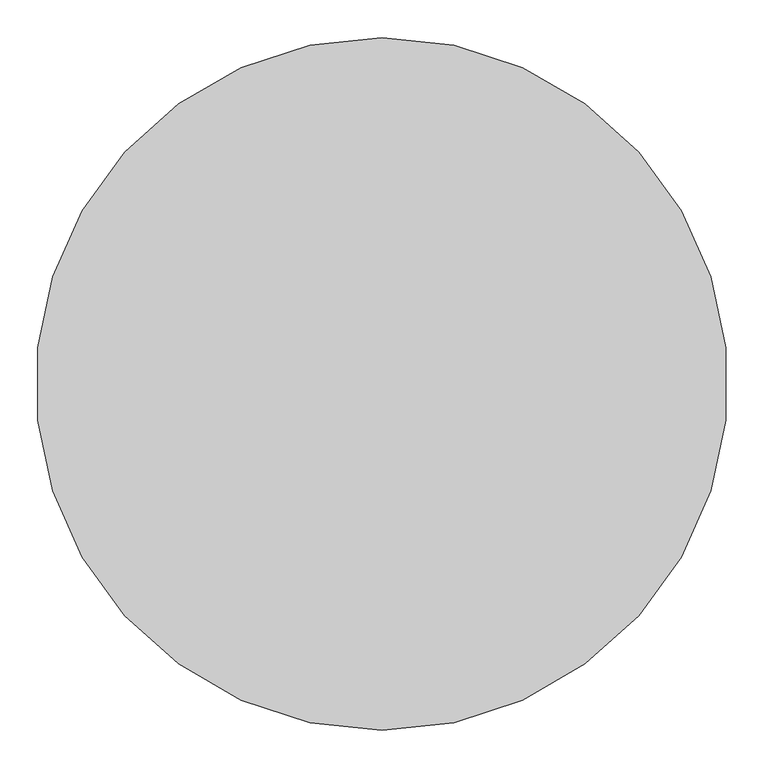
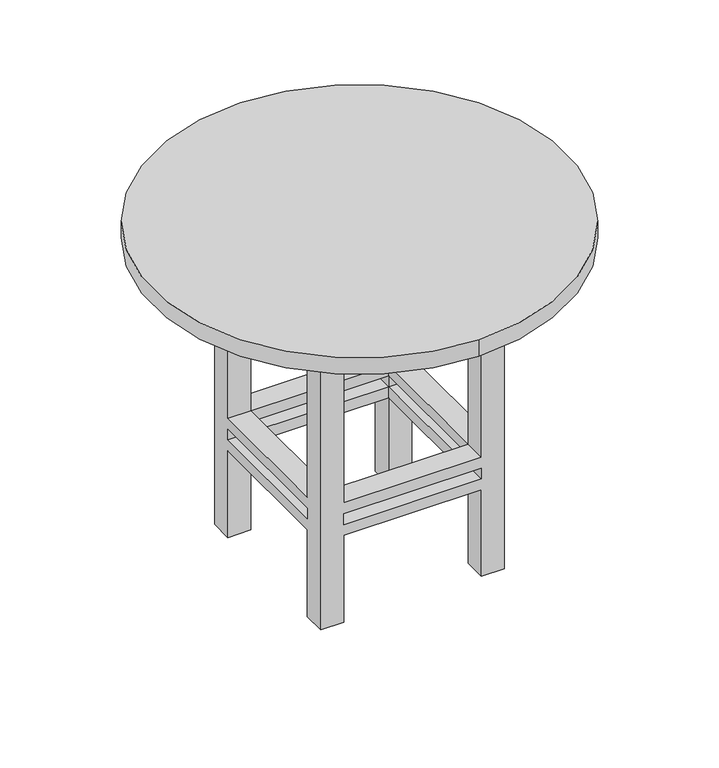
"""IFC4 building model written with IfcOpenShell, lengths in millimetres: furniture geometry, Стол-Обеденный круглый со стульями : Диаметр 0915мм."""

from ifc_helpers import new_model, si_unit, point, frame, frame_2d, origin, place, context, project, spatial, polyline, circle_curve, trimmed, segment, composite_curve, outline, extrude, faceted_brep, source, transform, mapped, element, save


def furniture_f6ad11bd(model_context):
    return source(origin(), model_context, "Body", "SolidModel", [
        faceted_brep([(-48.8680328, -18.4713115, 647.7), (-48.8680328, 32.3286885, 647.7), (-99.6680328, 32.3286885, 647.7), (-99.6680328, -18.4713115, 647.7), (256.2319672, -18.4713115, 647.7), (307.0319672, -18.4713115, 647.7), (307.0319672, 32.3286885, 647.7), (256.2319672, 32.3286885, 647.7), (256.2319672, 388.2286885, 647.7), (256.2319672, 337.4286885, 647.7), (307.0319672, 337.4286885, 647.7), (307.0319672, 388.2286885, 647.7), (-48.8680328, 388.2286885, 647.7), (-99.6680328, 388.2286885, 647.7), (-99.6680328, 337.4286885, 647.7), (-48.8680328, 337.4286885, 647.7), (-48.8680328, -18.4713115, 0.0), (-99.6680328, -18.4713115, 0.0), (-99.6680328, 32.3286885, 0.0), (-48.8680328, 32.3286885, 0.0), (256.2319672, -18.4713115, 0.0), (256.2319672, 32.3286885, 0.0), (307.0319672, 32.3286885, 0.0), (307.0319672, -18.4713115, 0.0), (256.2319672, 388.2286885, 0.0), (307.0319672, 388.2286885, 0.0), (307.0319672, 337.4286885, 0.0), (256.2319672, 337.4286885, 0.0), (-48.8680328, 388.2286885, 0.0), (-48.8680328, 337.4286885, 0.0), (-99.6680328, 337.4286885, 0.0), (-99.6680328, 388.2286885, 0.0), (-48.8680328, -18.4713115, 203.2), (256.2319672, -18.4713115, 203.2), (256.2319672, -18.4713115, 279.4), (-48.8680328, -18.4713115, 279.4), (256.2319672, -18.4713115, 228.6), (-48.8680328, -18.4713115, 228.6), (-48.8680328, -18.4713115, 254.0), (256.2319672, -18.4713115, 254.0), (-99.6680328, 32.3286885, 279.4), (-99.6680328, 337.4286885, 279.4), (-99.6680328, 337.4286885, 203.2), (-99.6680328, 32.3286885, 203.2), (-99.6680328, 32.3286885, 228.6), (-99.6680328, 337.4286885, 228.6), (-99.6680328, 337.4286885, 254.0), (-99.6680328, 32.3286885, 254.0), (-48.8680328, 32.3286885, 254.0), (-48.8680328, 32.3286885, 228.6), (-48.8680328, 32.3286885, 203.2), (-48.8680328, 32.3286885, 279.4), (256.2319672, 32.3286885, 254.0), (256.2319672, 32.3286885, 228.6), (256.2319672, 32.3286885, 203.2), (256.2319672, 32.3286885, 279.4), (307.0319672, 32.3286885, 203.2), (307.0319672, 32.3286885, 254.0), (307.0319672, 32.3286885, 228.6), (307.0319672, 32.3286885, 279.4), (307.0319672, 337.4286885, 203.2), (307.0319672, 337.4286885, 279.4), (307.0319672, 337.4286885, 228.6), (307.0319672, 337.4286885, 254.0), (256.2319672, 388.2286885, 203.2), (-48.8680328, 388.2286885, 203.2), (-48.8680328, 388.2286885, 279.4), (256.2319672, 388.2286885, 279.4), (-48.8680328, 388.2286885, 228.6), (256.2319672, 388.2286885, 228.6), (256.2319672, 388.2286885, 254.0), (-48.8680328, 388.2286885, 254.0), (256.2319672, 337.4286885, 254.0), (256.2319672, 337.4286885, 228.6), (256.2319672, 337.4286885, 203.2), (256.2319672, 337.4286885, 279.4), (-48.8680328, 337.4286885, 254.0), (-48.8680328, 337.4286885, 228.6), (-48.8680328, 337.4286885, 203.2), (-48.8680328, 337.4286885, 279.4)], [[[0, 1, 2, 3]], [[4, 5, 6, 7]], [[8, 9, 10, 11]], [[12, 13, 14, 15]], [[16, 17, 18, 19]], [[20, 21, 22, 23]], [[24, 25, 26, 27]], [[28, 29, 30, 31]], [[3, 17, 16, 32, 33, 20, 23, 5, 4, 34, 35, 0], [36, 37, 38, 39]], [[2, 40, 41, 14, 13, 31, 30, 42, 43, 18, 17, 3], [44, 45, 46, 47]], [[44, 47, 48, 49]], [[18, 43, 50, 19]], [[1, 51, 40, 2]], [[0, 35, 51, 1]], [[19, 50, 32, 16]], [[49, 48, 38, 37]], [[36, 39, 52, 53]], [[20, 33, 54, 21]], [[7, 55, 34, 4]], [[21, 54, 56, 22]], [[53, 52, 57, 58]], [[6, 59, 55, 7]], [[23, 22, 56, 60, 26, 25, 11, 10, 61, 59, 6, 5], [62, 58, 57, 63]], [[25, 24, 64, 65, 28, 31, 13, 12, 66, 67, 8, 11], [68, 69, 70, 71]], [[62, 63, 72, 73]], [[26, 60, 74, 27]], [[9, 75, 61, 10]], [[8, 67, 75, 9]], [[27, 74, 64, 24]], [[73, 72, 70, 69]], [[68, 71, 76, 77]], [[28, 65, 78, 29]], [[15, 79, 66, 12]], [[14, 41, 79, 15]], [[29, 78, 42, 30]], [[77, 76, 46, 45]], [[49, 37, 36, 53]], [[53, 58, 62, 73]], [[73, 69, 68, 77]], [[77, 45, 44, 49]], [[50, 43, 42, 78]], [[54, 33, 32, 50]], [[74, 60, 56, 54]], [[78, 65, 64, 74]], [[73, 74, 54, 53]], [[77, 78, 74, 73]], [[49, 50, 78, 77]], [[53, 54, 50, 49]], [[51, 35, 34, 55]], [[55, 59, 61, 75]], [[75, 67, 66, 79]], [[79, 41, 40, 51]], [[48, 47, 46, 76]], [[52, 39, 38, 48]], [[72, 63, 57, 52]], [[76, 71, 70, 72]], [[75, 72, 52, 55]], [[79, 76, 72, 75]], [[51, 48, 76, 79]], [[55, 52, 48, 51]]]),
        extrude(outline(polyline([(332.4319672, -43.8713115), (-125.0680328, -43.8713115), (-125.0680328, 413.6286885), (332.4319672, 413.6286885), (332.4319672, -43.8713115)]), holes=[polyline([(307.0319672, -18.4713115), (307.0319672, 388.2286885), (-99.6680328, 388.2286885), (-99.6680328, -18.4713115), (307.0319672, -18.4713115)])]), frame((0.0, 0.0, 647.7), z_axis=(0.0, 0.0, 1.0), x_axis=(1.0, 0.0, 0.0)), (0.0, 0.0, 1.0), 76.2),
        extrude(outline(composite_curve([segment(trimmed(circle_curve(frame_2d((103.6819672, 184.8786885)), 457.5), [point((103.6819672, 642.3786885))], [point((103.6819672, -272.6213115))], False, "CARTESIAN"), True, "CONTINUOUS"), segment(trimmed(circle_curve(frame_2d((103.6819672, 184.8786885)), 457.5), [point((103.6819672, -272.6213115))], [point((103.6819672, 642.3786885))], False, "CARTESIAN"), True, "CONTINUOUS")], self_intersect=False)), frame((0.0, 0.0, 723.9), z_axis=(0.0, 0.0, 1.0), x_axis=(1.0, 0.0, 0.0)), (0.0, 0.0, 1.0), 38.1),
    ])


if __name__ == "__main__":
    model = new_model("IFC4")
    model_context = context("Model", 3, world=origin())
    ifc_project = project(units=[si_unit("LENGTHUNIT", "METRE", prefix="MILLI")], contexts=[model_context])
    site = spatial("IfcSite", under=ifc_project)
    building = spatial("IfcBuilding", under=site)
    placement = place(None, origin())
    furniture_shape = furniture_f6ad11bd(model_context)
    element("IfcFurniture", 1, ObjectType="Стол-Обеденный круглый со стульями : Диаметр 0915мм", at=placement, inside=building, context=model_context, shape_type="MappedRepresentation", body=[
        mapped(furniture_shape, transform((0.0, 0.0, 0.0), x_axis=(1.0, 0.0, 0.0), y_axis=(0.0, 1.0, 0.0), z_axis=(0.0, 0.0, 1.0))),
    ])
    save(model, "model.ifc")
